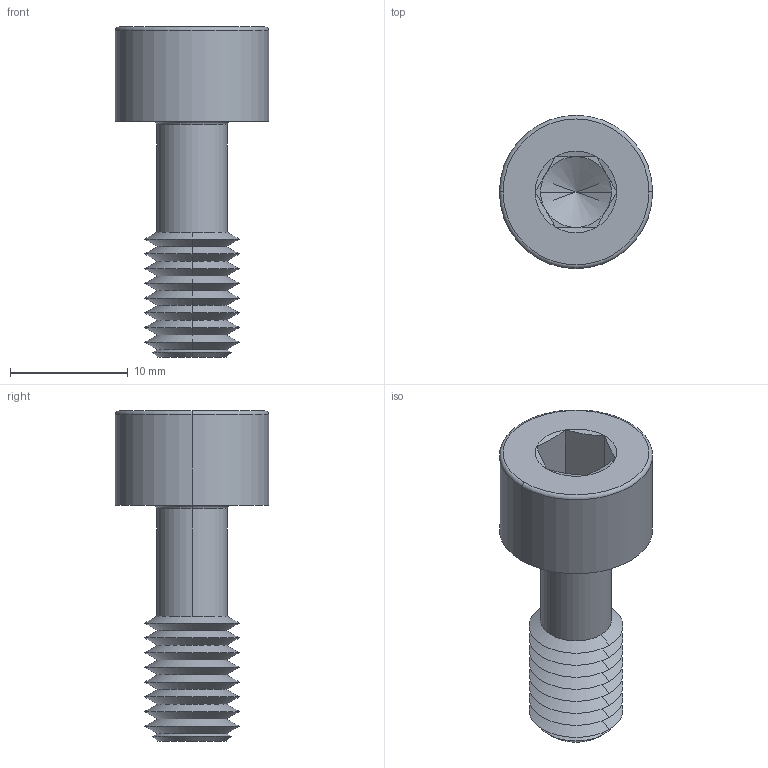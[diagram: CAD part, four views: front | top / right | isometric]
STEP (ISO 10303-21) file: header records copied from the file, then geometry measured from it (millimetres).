
FILE_DESCRIPTION (( 'STEP AP203' ), '1' );
FILE_NAME ('P0154.080-020-BL.step', '2024-06-17T11:31:03', ( '' ), ( '' ), 'SwSTEP 2.0', 'SolidWorks 2019', '' );
FILE_SCHEMA (( 'CONFIG_CONTROL_DESIGN' ));
Length unit declared in the file: millimetre
Products named in the file (1): P0154.080-020-BL
Bounding box: 13 x 13 x 28 mm (x, y, z)
Volume: 1520.9 mm3; surface area: 1341.1 mm2
Topology: 1 solids, 1 shells, 67 faces, 136 edges, 71 vertices
Faces by surface type: cone 44, plane 15, torus 4, cylinder 4
Entity records: 1787 total; most frequent: DIRECTION 332, CARTESIAN_POINT 299, ORIENTED_EDGE 268, AXIS2_PLACEMENT_3D 136, EDGE_CURVE 134, VERTEX_POINT 71, EDGE_LOOP 69, CIRCLE 68
